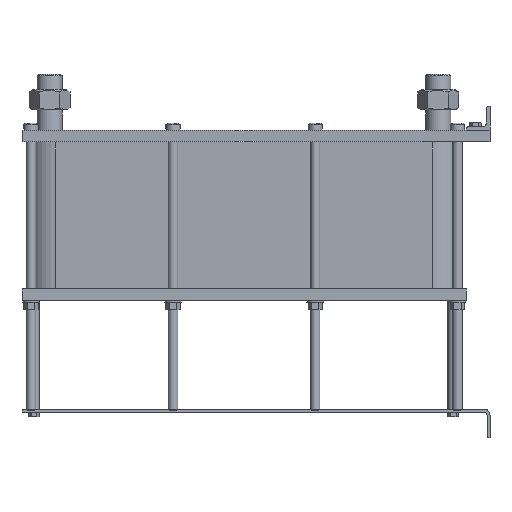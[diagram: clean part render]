
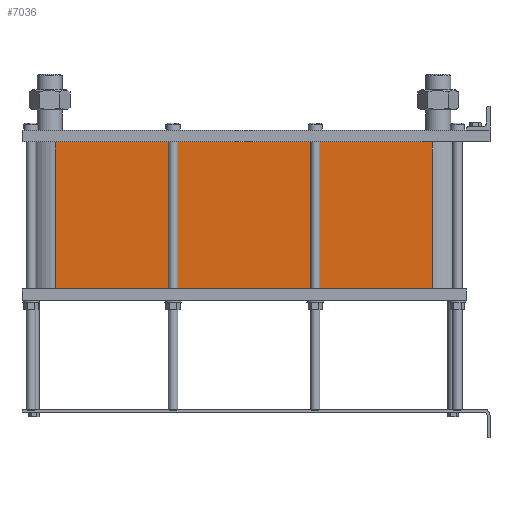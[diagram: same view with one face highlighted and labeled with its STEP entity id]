
A CAD part, left-side view. The second image highlights one B-rep face of the part: STEP entity #7036.
In plain terms, the highlighted planar face has unit normal (-1, 0, 0).
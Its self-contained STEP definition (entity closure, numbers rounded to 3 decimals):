
#999=LINE('',#15640,#1553);
#1031=LINE('',#15723,#1585);
#1032=LINE('',#15726,#1586);
#1033=LINE('',#15727,#1587);
#1553=VECTOR('',#9658,10.);
#1585=VECTOR('',#9736,10.);
#1586=VECTOR('',#9741,10.);
#1587=VECTOR('',#9742,10.);
#2117=FACE_OUTER_BOUND('',#2671,.T.);
#2671=EDGE_LOOP('',(#6246,#6247,#6248,#6249));
#3527=VERTEX_POINT('',#15634);
#3529=VERTEX_POINT('',#15638);
#3556=VERTEX_POINT('',#15720);
#3557=VERTEX_POINT('',#15722);
#4425=EDGE_CURVE('',#3529,#3527,#999,.T.);
#4466=EDGE_CURVE('',#3557,#3556,#1031,.T.);
#4468=EDGE_CURVE('',#3527,#3556,#1032,.T.);
#4469=EDGE_CURVE('',#3557,#3529,#1033,.T.);
#6246=ORIENTED_EDGE('',*,*,#4468,.F.);
#6247=ORIENTED_EDGE('',*,*,#4425,.F.);
#6248=ORIENTED_EDGE('',*,*,#4469,.F.);
#6249=ORIENTED_EDGE('',*,*,#4466,.T.);
#6608=PLANE('',#7812);
#7036=ADVANCED_FACE('',(#2117),#6608,.T.);
#7812=AXIS2_PLACEMENT_3D('',#15725,#9739,#9740);
#9658=DIRECTION('',(0.,0.,-1.));
#9736=DIRECTION('',(0.,0.,-1.));
#9739=DIRECTION('center_axis',(-1.,0.,0.));
#9740=DIRECTION('ref_axis',(0.,1.,0.));
#9741=DIRECTION('',(0.,1.,0.));
#9742=DIRECTION('',(0.,-1.,0.));
#15634=CARTESIAN_POINT('',(-72.,97.5,-248.));
#15638=CARTESIAN_POINT('',(-72.,97.5,0.));
#15640=CARTESIAN_POINT('',(-72.,97.5,0.));
#15720=CARTESIAN_POINT('',(-72.,733.5,-248.));
#15722=CARTESIAN_POINT('',(-72.,733.5,0.));
#15723=CARTESIAN_POINT('',(-72.,733.5,0.));
#15725=CARTESIAN_POINT('Origin',(-72.,97.5,0.));
#15726=CARTESIAN_POINT('',(-72.,256.5,-248.));
#15727=CARTESIAN_POINT('',(-72.,733.5,0.));
